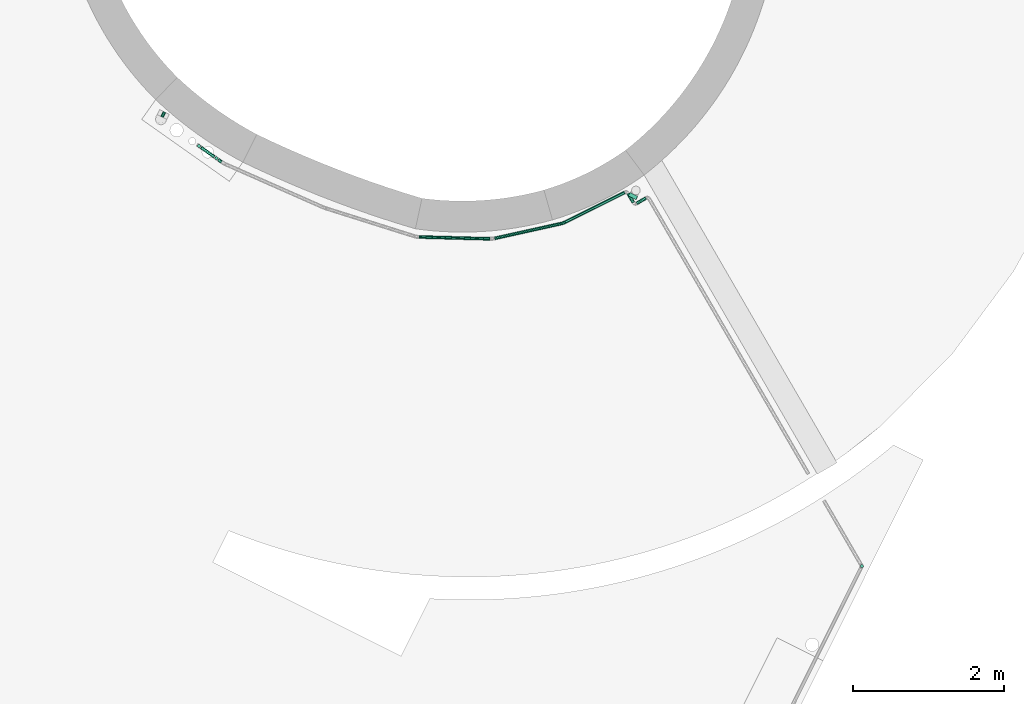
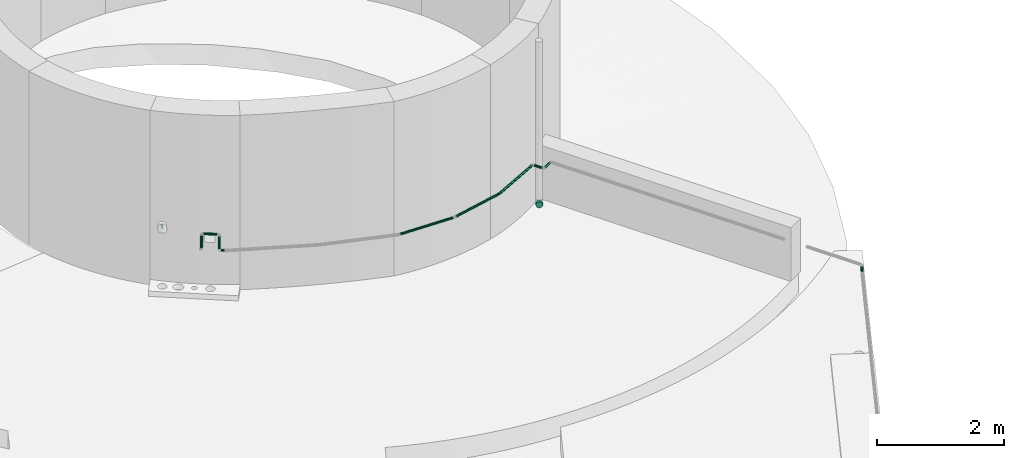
# One storey, part 25 of 34: 12 flow segments, 1 flow fitting.
"""IFC2X3 building model written with IfcOpenShell, lengths in metres."""

from ifc_helpers import new_model, entity, si_unit, converted_unit, derived_unit, direction, frame, frame_2d, origin, origin_2d_with_axis, place, context, subcontext, project, spatial, circle, extrude, faceted_brep, source, transform, mapped, type_object, type_shapes, element, save


model = new_model("IFC2X3")

# Units and contexts
model_context = context("Model", 3, precision=1e-05, world=origin(), true_north=direction((0.894925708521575, 0.446215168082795)))
context_of_model = context(None, 3, precision=1e-05, world=origin(), true_north=direction((0.894925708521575, 0.446215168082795)))
body_context = subcontext(model_context, "Body", "Model", "MODEL_VIEW")
ifc_project = project(units=[si_unit("LENGTHUNIT", "METRE"), si_unit("AREAUNIT", "SQUARE_METRE"), si_unit("VOLUMEUNIT", "CUBIC_METRE"), converted_unit("PLANEANGLEUNIT", "DEGREE", entity("IfcRatioMeasure", 0.0174532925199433), si_unit("PLANEANGLEUNIT", "RADIAN"), dimensions=[0, 0, 0, 0, 0, 0, 0]), si_unit("MASSUNIT", "GRAM", prefix="KILO"), si_unit("TIMEUNIT", "SECOND"), si_unit("FREQUENCYUNIT", "HERTZ"), si_unit("THERMODYNAMICTEMPERATUREUNIT", "DEGREE_CELSIUS"), derived_unit("THERMALTRANSMITTANCEUNIT", [(si_unit("MASSUNIT", "GRAM", prefix="KILO"), 1), (si_unit("THERMODYNAMICTEMPERATUREUNIT", "KELVIN"), -1), (si_unit("TIMEUNIT", "SECOND"), -3)]), derived_unit("VOLUMETRICFLOWRATEUNIT", [(si_unit("LENGTHUNIT", "METRE"), 3), (si_unit("TIMEUNIT", "SECOND"), -1)]), si_unit("ELECTRICCURRENTUNIT", "AMPERE"), si_unit("ELECTRICVOLTAGEUNIT", "VOLT"), si_unit("POWERUNIT", "WATT"), si_unit("FORCEUNIT", "NEWTON", prefix="KILO"), si_unit("ILLUMINANCEUNIT", "LUX"), si_unit("LUMINOUSFLUXUNIT", "LUMEN"), si_unit("LUMINOUSINTENSITYUNIT", "CANDELA"), si_unit("PRESSUREUNIT", "PASCAL")], contexts=[model_context, context_of_model])

# Site, building, storey
site_placement = place(None, frame((218.228324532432, 584.720189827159, 0.0), z_axis=(0.0, 0.0, 1.0), x_axis=(0.446215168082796, 0.894925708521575, 0.0)))
site = spatial("IfcSite", under=ifc_project, at=site_placement, Name="Default", CompositionType="ELEMENT")
building_placement = place(site_placement, origin())
building = spatial("IfcBuilding", under=site, at=building_placement, CompositionType="ELEMENT")
storey_placement = place(building_placement, frame((0.0, 0.0, 8.61)))
storey = spatial("IfcBuildingStorey", under=building, at=storey_placement, Name="2 - Piano Secondo", CompositionType="ELEMENT", Elevation=8.61)

# Flow segments
pipe_segment_type_1 = type_object("IfcPipeSegmentType", Name="Tubazione:Riscaldamento-Tubazione", PredefinedType="NOTDEFINED")
flow_segment_1_placement = place(storey_placement, frame((67.0009761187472, -1.79621461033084, 1.17732272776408)))
element("IfcFlowSegment", 1, at=flow_segment_1_placement, inside=storey, type_object=pipe_segment_type_1, Name="Tubazione:Riscaldamento-Tubazione", ObjectType="Tubazione:Riscaldamento-Tubazione", context=body_context, shape_type="SweptSolid", body=[
    extrude(circle(Radius=0.021082, at=frame_2d((2.70716782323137e-16, -2.16573425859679e-15), x_axis=(1.0, 0.0))), frame((6.92552437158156e-08, 0.0226775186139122, 0.022677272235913), z_axis=(1.0, -3.28504146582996e-06, 0.0), x_axis=(-3.28504146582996e-06, -1.0, 0.0)), (0.0, 0.0, 1.0), 0.0749999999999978),
])
pipe_segment_type_2 = type_object("IfcPipeSegmentType", Name="Tubazione:Antincendio-Tubazione", PredefinedType="NOTDEFINED")
flow_segment_2_placement = place(storey_placement, frame((68.766086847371, -7.99488927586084, 0.827322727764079)))
element("IfcFlowSegment", 2, at=flow_segment_2_placement, inside=storey, type_object=pipe_segment_type_2, Name="Tubazione:Antincendio-Tubazione", ObjectType="Tubazione:Antincendio-Tubazione", context=body_context, shape_type="SweptSolid", body=[
    extrude(circle(Radius=0.021082, at=frame_2d((9.03783521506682e-16, -4.6156984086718e-30), x_axis=(1.0, 0.0))), frame((0.130956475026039, 0.0191907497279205, 0.0226772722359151), z_axis=(-0.834620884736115, 0.550824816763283, 0.0), x_axis=(0.550824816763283, 0.834620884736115, 0.0)), (0.0, 0.0, 1.0), 0.141080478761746),
])
flow_segment_3_placement = place(storey_placement, frame((68.7510223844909, -7.86686139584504, 0.827322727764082)))
element("IfcFlowSegment", 3, at=flow_segment_3_placement, inside=storey, type_object=pipe_segment_type_2, Name="Tubazione:Antincendio-Tubazione", ObjectType="Tubazione:Antincendio-Tubazione", context=body_context, shape_type="SweptSolid", body=[
    extrude(circle(Radius=0.021082, at=frame_2d((-7.23026817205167e-15, 0.0), x_axis=(1.0, 0.0))), frame((0.0191907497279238, 0.0132077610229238, 0.0226772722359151), z_axis=(0.550824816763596, 0.834620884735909, 0.0), x_axis=(0.834620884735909, -0.550824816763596, 0.0)), (0.0, 0.0, 1.0), 0.138368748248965),
])
flow_segment_4_placement = place(storey_placement, frame((68.1229941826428, -7.71063434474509, 0.827322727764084)))
element("IfcFlowSegment", 4, at=flow_segment_4_placement, inside=storey, type_object=pipe_segment_type_2, Name="Tubazione:Antincendio-Tubazione", ObjectType="Tubazione:Antincendio-Tubazione", context=body_context, shape_type="SweptSolid", body=[
    extrude(circle(Radius=0.021082, at=origin_2d_with_axis()), frame((0.715505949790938, 0.0184321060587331, 0.0226772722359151), z_axis=(-0.7986355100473, 0.601815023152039, 0.0), x_axis=(0.601815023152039, 0.7986355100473, 0.0)), (0.0, 0.0, 1.0), 0.878026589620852),
])
flow_segment_5_placement = place(storey_placement, frame((67.5097321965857, -7.13452849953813, 0.827322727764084)))
element("IfcFlowSegment", 5, at=flow_segment_5_placement, inside=storey, type_object=pipe_segment_type_2, Name="Tubazione:Antincendio-Tubazione", ObjectType="Tubazione:Antincendio-Tubazione", context=body_context, shape_type="SweptSolid", body=[
    extrude(circle(Radius=0.021082, at=origin_2d_with_axis()), frame((0.0179790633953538, 0.711185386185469, 0.0226772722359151), z_axis=(0.629320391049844, -0.777145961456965, 0.0), x_axis=(0.777145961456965, 0.629320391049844, 0.0)), (0.0, 0.0, 1.0), 0.895999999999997),
])
flow_segment_6_placement = place(storey_placement, frame((67.0777764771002, -6.3799775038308, 0.827322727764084)))
element("IfcFlowSegment", 6, at=flow_segment_6_placement, inside=storey, type_object=pipe_segment_type_2, Name="Tubazione:Antincendio-Tubazione", ObjectType="Tubazione:Antincendio-Tubazione", context=body_context, shape_type="SweptSolid", body=[
    extrude(circle(Radius=0.021082, at=origin_2d_with_axis()), frame((0.41627274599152, 0.0105049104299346, 0.0226772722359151), z_axis=(-0.422618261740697, 0.906307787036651, 0.0), x_axis=(0.906307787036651, 0.422618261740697, 0.0)), (0.0, 0.0, 1.0), 0.936000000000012),
])
flow_segment_7_placement = place(storey_placement, frame((66.7993017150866, -2.74683021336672, 0.827322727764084)))
element("IfcFlowSegment", 7, at=flow_segment_7_placement, inside=storey, type_object=pipe_segment_type_2, Name="Tubazione:Antincendio-Tubazione", ObjectType="Tubazione:Antincendio-Tubazione", context=body_context, shape_type="SweptSolid", body=[
    extrude(circle(Radius=0.021082, at=origin_2d_with_axis()), frame((0.0224330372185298, 0.00479500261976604, 0.0226772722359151), z_axis=(0.151775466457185, 0.988414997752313, 0.0), x_axis=(0.988414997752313, -0.151775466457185, 0.0)), (0.0, 0.0, 1.0), 0.0520000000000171),
])
flow_segment_8_placement = place(storey_placement, frame((65.7940970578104, -12.7237562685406, 0.731999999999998)))
element("IfcFlowSegment", 8, at=flow_segment_8_placement, inside=storey, type_object=pipe_segment_type_2, Name="Tubazione:Antincendio-Tubazione", ObjectType="Tubazione:Antincendio-Tubazione", context=body_context, shape_type="SweptSolid", body=[
    extrude(circle(Radius=0.021082, at=frame_2d((0.0, -2.16573425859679e-15), x_axis=(1.0, 0.0))), frame((0.0226772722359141, 0.0226772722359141, 0.0), z_axis=(0.0, 0.0, 1.0), x_axis=(-1.0, 0.0, 0.0)), (0.0, 0.0, 1.0), 0.0860000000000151),
])
flow_segment_9_placement = place(storey_placement, frame((66.8118066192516, -2.68168562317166, 0.881999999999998)))
element("IfcFlowSegment", 9, at=flow_segment_9_placement, inside=storey, type_object=pipe_segment_type_2, Name="Tubazione:Antincendio-Tubazione", ObjectType="Tubazione:Antincendio-Tubazione", context=body_context, shape_type="SweptSolid", body=[
    extrude(circle(Radius=0.021082, at=frame_2d((0.0, 5.41433564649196e-16), x_axis=(1.0, 0.0))), frame((0.0226772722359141, 0.0226772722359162, 0.0), z_axis=(0.0, 0.0, 1.0), x_axis=(-1.0, 0.0, 0.0)), (0.0, 0.0, 1.0), 0.236000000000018),
])
flow_segment_10_placement = place(storey_placement, frame((66.8169076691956, -2.63217407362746, 1.1273227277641)))
element("IfcFlowSegment", 10, at=flow_segment_10_placement, inside=storey, type_object=pipe_segment_type_2, Name="Tubazione:Antincendio-Tubazione", ObjectType="Tubazione:Antincendio-Tubazione", context=body_context, shape_type="SweptSolid", body=[
    extrude(circle(Radius=0.021082, at=origin_2d_with_axis()), frame((0.0224330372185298, 0.0047950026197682, 0.0226772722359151), z_axis=(0.151775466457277, 0.988414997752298, 0.0), x_axis=(0.988414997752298, -0.151775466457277, 0.0)), (0.0, 0.0, 1.0), 0.216000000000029),
])
flow_segment_11_placement = place(storey_placement, frame((66.8543037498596, -2.40492942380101, 0.881999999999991)))
element("IfcFlowSegment", 11, at=flow_segment_11_placement, inside=storey, type_object=pipe_segment_type_2, Name="Tubazione:Antincendio-Tubazione", ObjectType="Tubazione:Antincendio-Tubazione", context=body_context, shape_type="SweptSolid", body=[
    extrude(circle(Radius=0.021082, at=origin_2d_with_axis()), frame((0.0226772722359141, 0.0226772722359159, 0.0)), (0.0, 0.0, 1.0), 0.236000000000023),
])

# Flow fitting
pipe_fitting_type = type_object("IfcPipeFittingType", Name="Standard", PredefinedType="NOTDEFINED")
shared_shape = source(origin(), body_context, "Body", "Brep", [
    faceted_brep([(-0.0319999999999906, 0.0105499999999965, -0.0182731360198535), (-0.0319999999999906, 0.00546108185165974, -0.0203810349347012), (-0.0319999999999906, 0.0, -0.0211000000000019), (-0.0319999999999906, -0.00546108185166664, -0.0203810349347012), (-0.0319999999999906, -0.0105500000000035, -0.0182731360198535), (-0.0319999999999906, -0.0149199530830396, -0.0149199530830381), (-0.0319999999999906, -0.0182731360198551, -0.0105500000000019), (-0.0319999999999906, -0.0203810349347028, -0.00546108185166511), (-0.0319999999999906, -0.0211000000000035, 0.0), (-0.0319999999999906, -0.0203810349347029, 0.00546108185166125), (-0.0319999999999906, -0.0182731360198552, 0.0105499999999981), (-0.0319999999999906, -0.0149199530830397, 0.0149199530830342), (-0.0319999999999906, -0.0105500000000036, 0.0182731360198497), (-0.0319999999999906, -0.00546108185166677, 0.0203810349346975), (-0.0319999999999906, 0.0, 0.0210999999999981), (-0.0319999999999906, 0.0054610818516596, 0.0203810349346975), (-0.0319999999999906, 0.0105499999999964, 0.0182731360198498), (-0.0319999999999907, 0.0149199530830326, 0.0149199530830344), (-0.0319999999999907, 0.0182731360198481, 0.0105499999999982), (-0.0319999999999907, 0.0203810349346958, 0.00546108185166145), (-0.0319999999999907, 0.0210999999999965, 0.0), (-0.0319999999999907, 0.0203810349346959, -0.00546108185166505), (-0.0319999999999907, 0.0182731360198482, -0.0105500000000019), (-0.0319999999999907, 0.0149199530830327, -0.014919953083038), (0.0310494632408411, 0.00774150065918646, -0.0211000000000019), (0.0297283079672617, 0.0130403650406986, -0.0203810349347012), (0.0284971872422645, 0.0179781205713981, -0.0182731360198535), (0.0274399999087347, 0.0222182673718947, -0.014919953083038), (0.0266287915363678, 0.0254718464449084, -0.0105500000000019), (0.0261188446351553, 0.0275171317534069, -0.00546108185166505), (0.0259449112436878, 0.0282147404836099, 0.0), (0.0261188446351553, 0.0275171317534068, 0.00546108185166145), (0.0266287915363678, 0.0254718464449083, 0.0105499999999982), (0.0274399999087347, 0.0222182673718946, 0.0149199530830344), (0.0284971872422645, 0.017978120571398, 0.0182731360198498), (0.0297283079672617, 0.0130403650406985, 0.0203810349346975), (0.0310494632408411, 0.00774150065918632, 0.0210999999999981), (0.0323706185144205, 0.00244263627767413, 0.0203810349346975), (0.0336017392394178, -0.00249511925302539, 0.0182731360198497), (0.0346589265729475, -0.00673526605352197, 0.0149199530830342), (0.0354701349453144, -0.00998884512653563, 0.0105499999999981), (0.0359800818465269, -0.0120341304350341, 0.00546108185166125), (0.0361540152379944, -0.0127317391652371, 0.0), (0.0359800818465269, -0.0120341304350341, -0.00546108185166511), (0.0354701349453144, -0.00998884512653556, -0.0105500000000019), (0.0346589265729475, -0.00673526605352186, -0.0149199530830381), (0.0336017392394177, -0.00249511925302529, -0.0182731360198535), (0.0323706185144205, 0.00244263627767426, -0.0203810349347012), (0.00180471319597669, -0.0146982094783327, 0.0128108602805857), (0.00133095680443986, -0.0108397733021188, 0.0167139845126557), (0.00210315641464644, -0.017128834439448, 0.00871816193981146), (0.000750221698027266, -0.00611006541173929, 0.0194778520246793), (0.0001020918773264, -0.000831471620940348, 0.0209140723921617), (-0.000569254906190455, 0.00463620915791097, 0.0209247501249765), (0.00227462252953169, -0.018525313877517, 0.00446743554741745), (-0.00227569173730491, 0.018534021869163, 0.0128757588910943), (-0.00180009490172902, 0.01466059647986, 0.0167637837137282), (-0.00261243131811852, 0.0212765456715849, 0.00811009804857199), (-0.0027561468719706, 0.0224470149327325, 0.00429431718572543), (-0.0012180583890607, 0.00992028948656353, 0.0195091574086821), (0.00233291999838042, -0.0190001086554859, 0.0), (-0.00280996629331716, 0.0228853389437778, 0.0), (0.000102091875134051, -0.000831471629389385, -0.0209140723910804), (-0.00275614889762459, 0.0224470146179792, -0.00429431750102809), (-0.000569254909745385, 0.00463620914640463, -0.0209247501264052), (-0.00261243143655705, 0.0212765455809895, -0.00811009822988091), (0.00590008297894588, -0.0181340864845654, -0.00409512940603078), (0.00213919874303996, -0.0174223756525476, -0.0080345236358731), (-0.00180009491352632, 0.0146605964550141, -0.0167637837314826), (0.00180471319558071, -0.0146982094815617, -0.0128108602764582), (0.00133095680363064, -0.0108397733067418, -0.0167139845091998), (-0.00121805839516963, 0.0099202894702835, -0.0195091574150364), (-0.00227569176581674, 0.0185340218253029, -0.0128757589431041), (0.000750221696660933, -0.00611006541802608, -0.0194778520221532)], [[[0, 1, 2, 3, 4, 5, 6, 7, 8, 9, 10, 11, 12, 13, 14, 15, 16, 17, 18, 19, 20, 21, 22, 23]], [[24, 25, 26, 27, 28, 29, 30, 31, 32, 33, 34, 35, 36, 37, 38, 39, 40, 41, 42, 43, 44, 45, 46, 47]], [[10, 48, 11]], [[12, 11, 49]], [[10, 9, 50]], [[40, 39, 48]], [[48, 49, 11]], [[13, 12, 51]], [[49, 51, 12]], [[14, 13, 52]], [[14, 53, 15]], [[39, 38, 49]], [[40, 48, 50]], [[50, 9, 54]], [[17, 55, 18]], [[56, 17, 16]], [[37, 36, 52]], [[51, 52, 13]], [[36, 35, 53]], [[19, 57, 58]], [[50, 48, 10]], [[20, 19, 58]], [[19, 18, 57]], [[53, 59, 15]], [[16, 15, 59]], [[52, 53, 14]], [[8, 60, 54]], [[38, 37, 51]], [[52, 51, 37]], [[38, 51, 49]], [[20, 58, 61]], [[53, 52, 36]], [[50, 41, 40]], [[42, 54, 60]], [[39, 49, 48]], [[42, 41, 54]], [[8, 54, 9]], [[58, 57, 31]], [[61, 58, 30]], [[34, 33, 56]], [[59, 56, 16]], [[32, 31, 57]], [[59, 34, 56]], [[33, 32, 55]], [[33, 55, 56]], [[55, 57, 18]], [[55, 32, 57]], [[53, 35, 59]], [[56, 55, 17]], [[30, 58, 31]], [[54, 41, 50]], [[35, 34, 59]], [[3, 2, 62]], [[30, 63, 61]], [[20, 63, 21]], [[2, 1, 64]], [[65, 22, 21]], [[66, 67, 43]], [[23, 68, 0]], [[69, 70, 45]], [[1, 0, 71]], [[65, 21, 63]], [[72, 65, 28]], [[22, 72, 23]], [[8, 7, 66]], [[7, 67, 66]], [[70, 5, 4]], [[66, 60, 8]], [[7, 6, 67]], [[5, 69, 6]], [[73, 4, 3]], [[69, 5, 70]], [[20, 61, 63]], [[42, 66, 43]], [[30, 29, 63]], [[70, 4, 73]], [[67, 6, 69]], [[28, 65, 29]], [[68, 27, 26]], [[67, 69, 44]], [[26, 25, 71]], [[68, 23, 72]], [[71, 68, 26]], [[27, 72, 28]], [[72, 22, 65]], [[24, 64, 25]], [[73, 47, 46]], [[71, 0, 68]], [[62, 64, 24]], [[70, 46, 45]], [[44, 43, 67]], [[73, 62, 47]], [[42, 60, 66]], [[70, 73, 46]], [[62, 2, 64]], [[69, 45, 44]], [[64, 1, 71]], [[47, 62, 24]], [[64, 71, 25]], [[63, 29, 65]], [[68, 72, 27]], [[73, 3, 62]]]),
])
type_shapes(pipe_fitting_type, [shared_shape])
flow_fitting_placement = place(storey_placement, frame((68.1117205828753, -7.1445345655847, 0.850000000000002), z_axis=(0.0, 0.0, 1.0), x_axis=(0.629320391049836, -0.777145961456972, 0.0)))
element("IfcFlowFitting", 12, at=flow_fitting_placement, inside=storey, type_object=pipe_fitting_type, Name="M_Gomito - Saldato - Generico:Standard", ObjectType="Standard", context=body_context, shape_type="MappedRepresentation", body=[
    mapped(shared_shape, transform((0.0, 0.0, 0.0), scale=1.0)),
])

# Flow segment
pipe_segment_type_3 = type_object("IfcPipeSegmentType", Name="Tubazione:Pluviale-Tubazione Inox", PredefinedType="NOTDEFINED")
flow_segment_12_placement = place(storey_placement, frame((68.819961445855, -7.87148974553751, 0.0484047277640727)))
element("IfcFlowSegment", 13, at=flow_segment_12_placement, inside=storey, type_object=pipe_segment_type_3, Name="Tubazione:Pluviale-Tubazione Inox", ObjectType="Tubazione:Pluviale-Tubazione Inox", context=body_context, shape_type="SweptSolid", body=[
    extrude(circle(Radius=0.05715, at=frame_2d((1.08286712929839e-15, 0.0), x_axis=(1.0, 0.0))), frame((0.0, 0.058745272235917, 0.0587452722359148), z_axis=(1.0, 0.0, 0.0), x_axis=(0.0, 1.0, 0.0)), (0.0, 0.0, 1.0), 0.0499999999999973),
])

save(model, "model.ifc")
